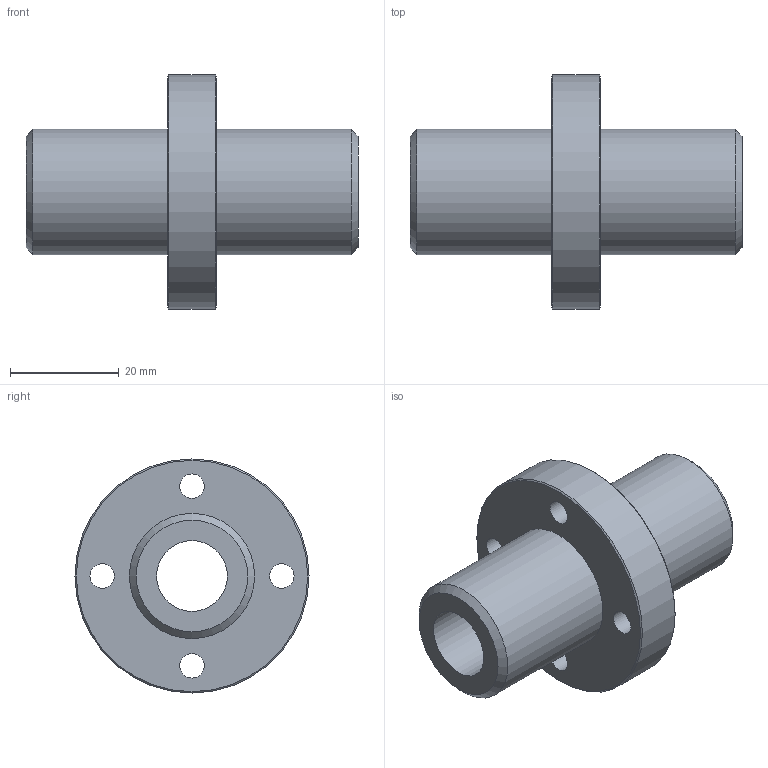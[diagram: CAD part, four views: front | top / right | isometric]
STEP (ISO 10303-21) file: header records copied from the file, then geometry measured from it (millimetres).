
FILE_DESCRIPTION(('STEP AP203'),'1');
FILE_NAME('//192.168.1.1/share/s-4 技術開発/s-4-4_CAD/s-4-4-3_見直し済み/PBC LINEAR修正済み/CFPJ/CFPJ_TOP/CFPJR/CFPJR13.step','2022-03-24T04:18:08',(' '),(' '),'Spatial InterOp 3D',' ',' ');
FILE_SCHEMA(('CONFIG_CONTROL_DESIGN'));
Length unit declared in the file: millimetre
Products named in the file (1): 1
Bounding box: 61 x 43 x 43 mm (x, y, z)
Volume: 25424.1 mm3; surface area: 10489.4 mm2
Topology: 1 solids, 1 shells, 24 faces, 50 edges, 34 vertices
Faces by surface type: cylinder 12, plane 8, cone 4
Full cylindrical faces by diameter (mm): 4.5 x4, 7.5 x4, 13 x1, 23 x2, 43 x1
Entity records: 588 total; most frequent: DIRECTION 106, CARTESIAN_POINT 81, EDGE_LOOP 56, ORIENTED_EDGE 56, AXIS2_PLACEMENT_3D 53, FACE_OUTER_BOUND 36, EDGE_CURVE 28, VERTEX_POINT 28
